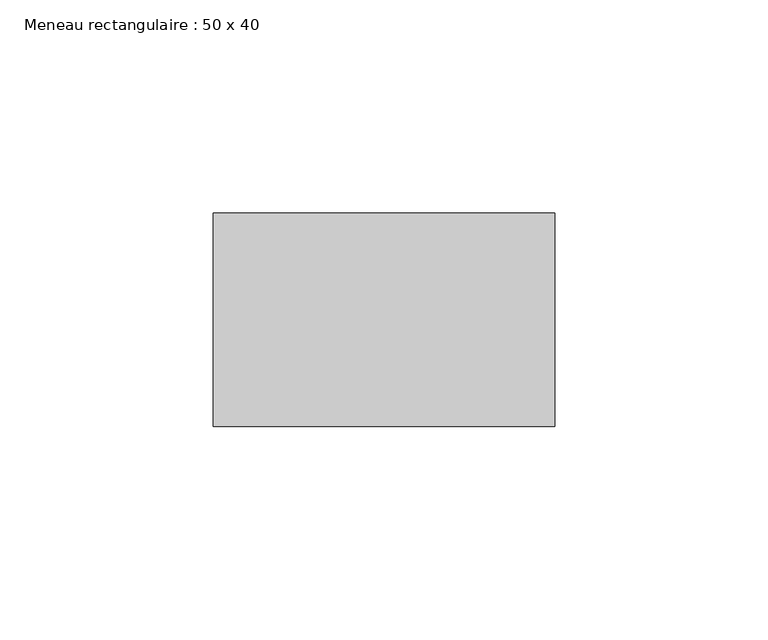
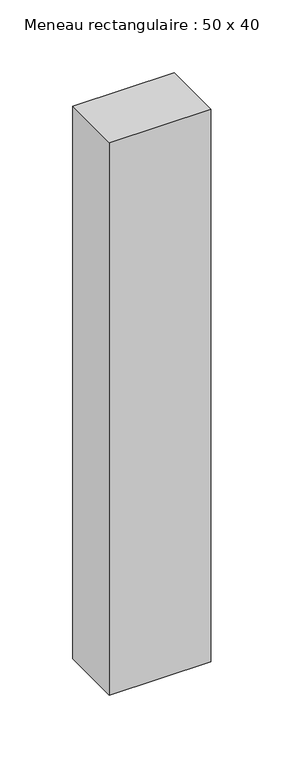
"""IFC4 building model written with IfcOpenShell, lengths in millimetres: member geometry, Meneau rectangulaire : 50 x 40."""

from ifc_helpers import new_model, si_unit, frame, origin, place, context, project, spatial, polyline, outline, extrude, source, transform, mapped, element, save


def meneau_rectangulaire_50_x_40_1a2cb6f6(model_context):
    return source(origin(), model_context, "Body", "SweptSolid", [
        extrude(outline(polyline([(40.0, 0.0), (40.0, -50.0), (-40.0, -50.0), (-40.0, 0.0), (40.0, 0.0)])), frame((0.0, 0.0, -462.0), z_axis=(0.0, 0.0, 1.0), x_axis=(1.0, 0.0, 0.0)), (0.0, 0.0, 1.0), 462.0),
    ])


if __name__ == "__main__":
    model = new_model("IFC4")
    model_context = context("Model", 3, world=origin())
    ifc_project = project(units=[si_unit("LENGTHUNIT", "METRE", prefix="MILLI")], contexts=[model_context])
    site = spatial("IfcSite", under=ifc_project)
    building = spatial("IfcBuilding", under=site)
    placement = place(None, origin())
    meneau_rectangulaire_50_x_40_shape = meneau_rectangulaire_50_x_40_1a2cb6f6(model_context)
    element("IfcMember", 1, ObjectType="Meneau rectangulaire : 50 x 40", at=placement, inside=building, context=model_context, shape_type="MappedRepresentation", body=[
        mapped(meneau_rectangulaire_50_x_40_shape, transform((0.0, 0.0, 0.0), x_axis=(1.0, 0.0, 0.0), y_axis=(0.0, 1.0, 0.0), z_axis=(0.0, 0.0, 1.0))),
    ])
    save(model, "model.ifc")
